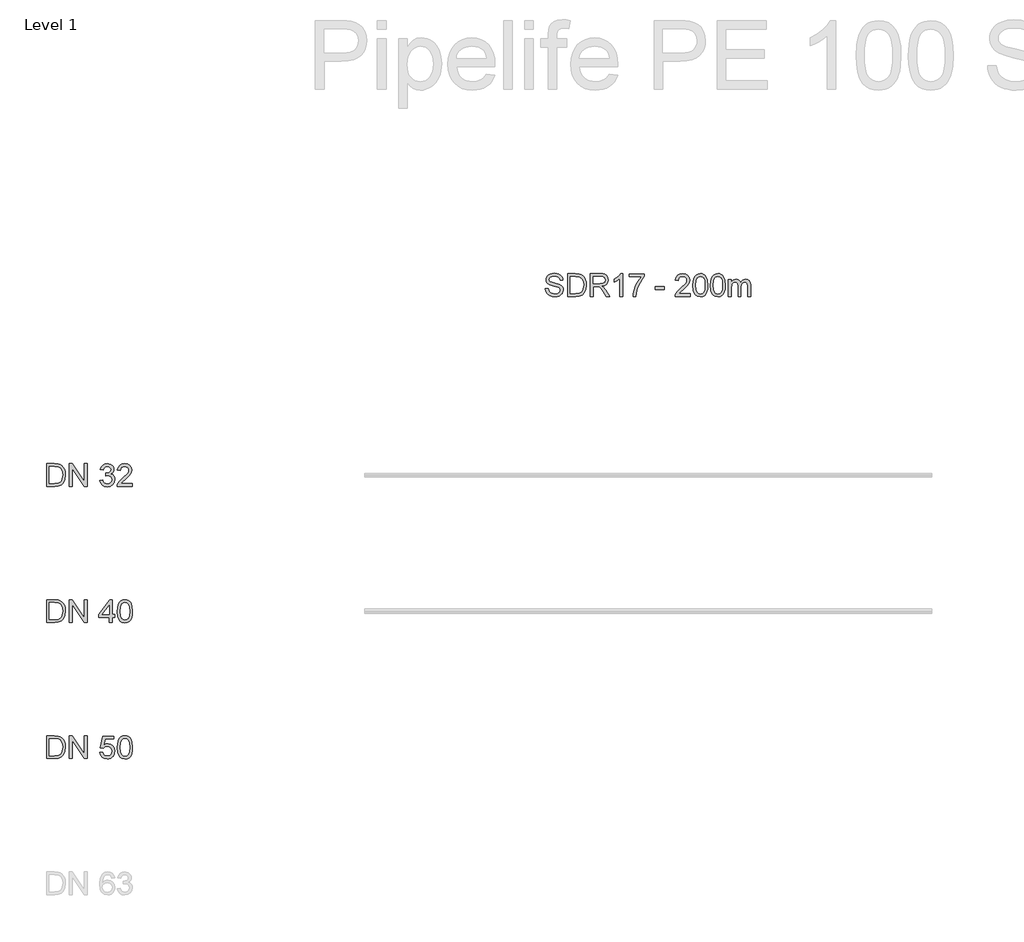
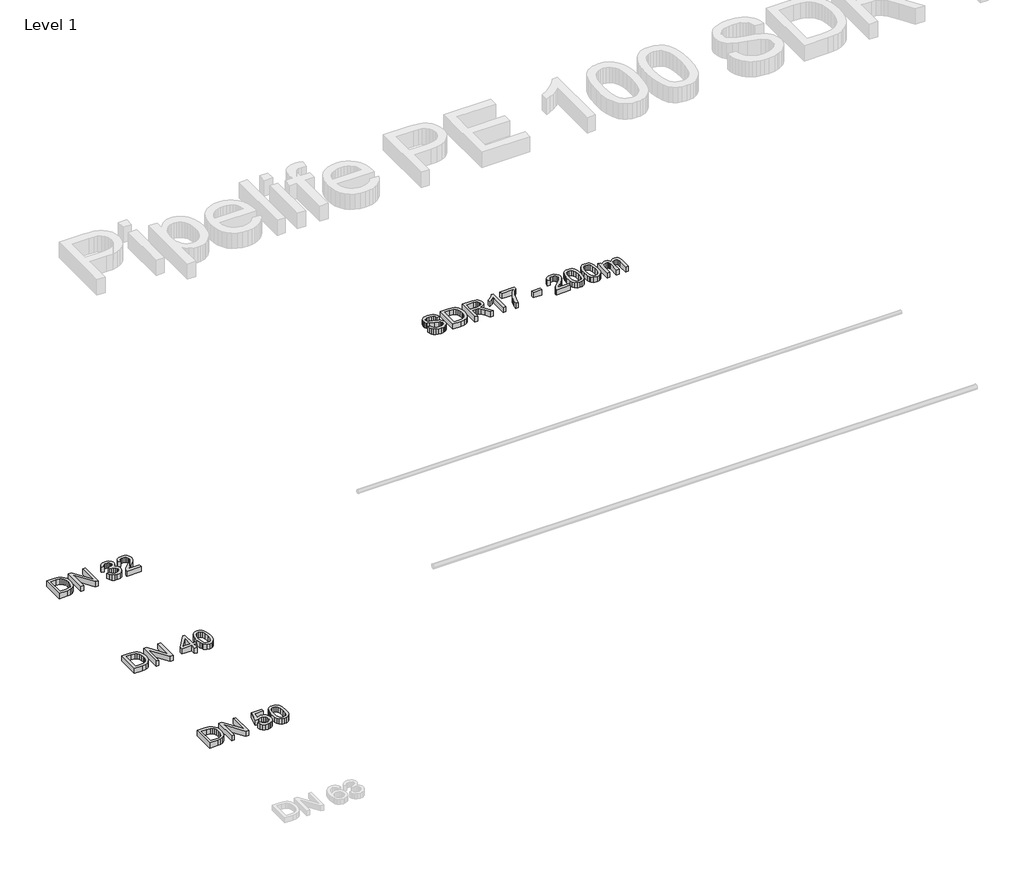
# One storey, part 13 of 26: 4 proxies.
"""IFC4 building model written with IfcOpenShell, lengths in millimetres."""

from ifc_helpers import new_model, si_unit, origin, origin_with_axes, place, context, project, spatial, polyline, outline, extrude, element, save

model = new_model("IFC4")

# Units and contexts
model_context = context("Model", 3, world=origin())
ifc_project = project(units=[si_unit("LENGTHUNIT", "METRE", prefix="MILLI")], contexts=[model_context])

# Site, building, storey
site = spatial("IfcSite", under=ifc_project)
building = spatial("IfcBuilding", under=site)
storey = spatial("IfcBuildingStorey", under=building, Name="Level 1", Elevation=0.0)

# Proxies
placement = place(None, origin())
element("IfcBuildingElementProxy", 1, Name="200mm Arial", ObjectType="200mm Arial", at=placement, inside=storey, context=model_context, shape_type="SweptSolid", body=[
    extrude(outline(polyline([(-19337.4878779, -38413.949573), (-19337.4878779, -38213.0369527), (-19268.17891, -38213.0369527), (-19232.3226782, -38215.9309577), (-19216.3075487, -38221.5105013), (-19202.7940167, -38230.302881), (-19188.90034, -38245.606772), (-19179.0043144, -38264.6385338), (-19173.0814143, -38287.0302846), (-19171.1071142, -38312.4141423), (-19176.4536659, -38352.9547382), (-19190.187927, -38382.2136195), (-19208.5329759, -38400.436041), (-19232.5434074, -38410.5160077), (-19264.8434466, -38413.949573), (-19337.4878779, -38413.949573)]), holes=[polyline([(-19312.3738004, -38388.8354954), (-19267.9336553, -38388.8354954), (-19235.6090907, -38385.2057264), (-19216.9697363, -38374.9540815), (-19208.2448016, -38364.0831685), (-19201.6903707, -38350.0116822), (-19197.5884865, -38332.6783089), (-19196.2211917, -38312.0217348), (-19198.9005989, -38284.6513144), (-19206.9388205, -38264.4423301), (-19218.8152776, -38250.5609162), (-19233.0093913, -38242.1732067), (-19268.6203684, -38238.1510302), (-19312.3738004, -38238.1510302), (-19312.3738004, -38388.8354954)])]), origin_with_axes(), (0.0, 0.0, 1.0), 50.0),
    extrude(outline(polyline([(-19136.5752576, -38413.949573), (-19136.5752576, -38213.0369527), (-19109.6953465, -38213.0369527), (-19004.7263505, -38372.2072292), (-19004.7263505, -38213.0369527), (-18979.612273, -38213.0369527), (-18979.612273, -38413.949573), (-19006.4921841, -38413.949573), (-19111.4611801, -38254.7302454), (-19111.4611801, -38413.949573), (-19136.5752576, -38413.949573)])), origin_with_axes(), (0.0, 0.0, 1.0), 50.0),
    extrude(outline(polyline([(-18866.5989241, -38360.5821582), (-18841.4848465, -38357.4428985), (-18835.8623834, -38373.2250361), (-18827.627958, -38383.8813512), (-18816.3769004, -38389.9514041), (-18801.7045401, -38391.9747551), (-18784.4876627, -38389.1911147), (-18771.19486, -38380.8401934), (-18762.6967859, -38368.3812565), (-18759.8640945, -38353.2735692), (-18762.6722604, -38338.9323028), (-18771.0967581, -38327.3011004), (-18783.8500006, -38319.5939726), (-18799.6444009, -38317.02493), (-18817.2536858, -38319.7717822), (-18814.4577826, -38294.6577047), (-18810.4356061, -38294.9520102), (-18795.3892325, -38293.1493885), (-18781.9370142, -38287.7415231), (-18772.4456588, -38278.5935242), (-18769.2818736, -38265.5705016), (-18771.5750047, -38254.7241141), (-18778.454398, -38245.925603), (-18788.9512976, -38240.0946734), (-18802.0969476, -38238.1510302), (-18815.267123, -38240.1130675), (-18826.0338027, -38245.9991794), (-18833.8942147, -38255.809366), (-18838.3455868, -38269.5436271), (-18863.4596644, -38266.4043674), (-18856.0652363, -38243.8532011), (-18842.9073236, -38227.0164685), (-18824.9056313, -38216.5318316), (-18802.9798644, -38213.0369527), (-18787.1915954, -38214.7598667), (-18772.6909134, -38219.9286087), (-18760.4649685, -38228.0833263), (-18751.5009105, -38238.7641669), (-18746.0010747, -38251.0698196), (-18744.1677961, -38264.0989736), (-18745.9091042, -38276.2390794), (-18751.1330285, -38287.2510138), (-18759.7659927, -38296.6320047), (-18771.7344202, -38303.87928), (-18756.0135963, -38310.2313758), (-18744.3639998, -38321.0471064), (-18737.1535127, -38335.7378608), (-18734.750017, -38353.7150276), (-18739.5570084, -38378.191443), (-18753.9779826, -38398.645682), (-18775.744334, -38412.478045), (-18802.5874569, -38417.0888326), (-18826.8676686, -38413.1524953), (-18846.6351945, -38401.3434833), (-18860.3817184, -38383.2804773), (-18866.5989241, -38360.5821582)])), origin_with_axes(), (0.0, 0.0, 1.0), 50.0),
    extrude(outline(polyline([(-18584.0655518, -38388.8354954), (-18584.0655518, -38413.949573), (-18715.9144588, -38413.949573), (-18713.2166575, -38396.6345937), (-18697.9618175, -38369.9754118), (-18666.5201696, -38340.8636832), (-18623.1591451, -38299.0232377), (-18615.028953, -38284.6022634), (-18612.318889, -38270.5736967), (-18614.8756689, -38257.9982638), (-18622.5460085, -38247.5442838), (-18634.3366264, -38240.4993436), (-18649.2542413, -38238.1510302), (-18664.9198829, -38240.4441613), (-18677.0906456, -38247.3235546), (-18684.9449262, -38258.2496499), (-18687.6611216, -38272.6828868), (-18712.7751992, -38269.5436271), (-18706.6867521, -38245.2511527), (-18693.5227081, -38227.5069778), (-18673.96978, -38216.6544589), (-18648.7146811, -38213.0369527), (-18623.2756411, -38217.0591291), (-18603.7595012, -38229.1256586), (-18591.3434839, -38247.1518763), (-18587.2048115, -38269.0531178), (-18591.6684463, -38292.8673456), (-18606.5063535, -38317.4909138), (-18642.4852126, -38351.9001431), (-18671.376212, -38376.0577275), (-18682.7069774, -38388.8354954), (-18584.0655518, -38388.8354954)])), origin_with_axes(), (0.0, 0.0, 1.0), 50.0),
])
element("IfcBuildingElementProxy", 2, Name="200mm Arial", ObjectType="200mm Arial", at=placement, inside=storey, context=model_context, shape_type="SweptSolid", body=[
    extrude(outline(polyline([(-19337.4878779, -39613.949573), (-19337.4878779, -39413.0369527), (-19268.17891, -39413.0369527), (-19232.3226782, -39415.9309577), (-19216.3075487, -39421.5105013), (-19202.7940167, -39430.302881), (-19188.90034, -39445.606772), (-19179.0043144, -39464.6385338), (-19173.0814143, -39487.0302846), (-19171.1071142, -39512.4141423), (-19176.4536659, -39552.9547382), (-19190.187927, -39582.2136195), (-19208.5329759, -39600.436041), (-19232.5434074, -39610.5160077), (-19264.8434466, -39613.949573), (-19337.4878779, -39613.949573)]), holes=[polyline([(-19312.3738004, -39588.8354954), (-19267.9336553, -39588.8354954), (-19235.6090907, -39585.2057264), (-19216.9697363, -39574.9540815), (-19208.2448016, -39564.0831685), (-19201.6903707, -39550.0116822), (-19197.5884865, -39532.6783089), (-19196.2211917, -39512.0217348), (-19198.9005989, -39484.6513144), (-19206.9388205, -39464.4423301), (-19218.8152776, -39450.5609162), (-19233.0093913, -39442.1732067), (-19268.6203684, -39438.1510302), (-19312.3738004, -39438.1510302), (-19312.3738004, -39588.8354954)])]), origin_with_axes(), (0.0, 0.0, 1.0), 50.0),
    extrude(outline(polyline([(-19136.5752576, -39613.949573), (-19136.5752576, -39413.0369527), (-19109.6953465, -39413.0369527), (-19004.7263505, -39572.2072292), (-19004.7263505, -39413.0369527), (-18979.612273, -39413.0369527), (-18979.612273, -39613.949573), (-19006.4921841, -39613.949573), (-19111.4611801, -39454.7302454), (-19111.4611801, -39613.949573), (-19136.5752576, -39613.949573)])), origin_with_axes(), (0.0, 0.0, 1.0), 50.0),
    extrude(outline(polyline([(-18784.9781721, -39613.949573), (-18784.9781721, -39566.8606776), (-18876.0167031, -39566.8606776), (-18876.0167031, -39541.7466), (-18778.6996527, -39416.1762123), (-18759.8640945, -39416.1762123), (-18759.8640945, -39541.7466), (-18734.750017, -39541.7466), (-18734.750017, -39566.8606776), (-18759.8640945, -39566.8606776), (-18759.8640945, -39613.949573), (-18784.9781721, -39613.949573)]), holes=[polyline([(-18784.9781721, -39541.7466), (-18784.9781721, -39464.1480245), (-18845.1146156, -39541.7466), (-18784.9781721, -39541.7466)])]), origin_with_axes(), (0.0, 0.0, 1.0), 50.0),
    extrude(outline(polyline([(-18712.7751992, -39515.1119436), (-18710.9296578, -39482.9529258), (-18705.3930338, -39457.3054194), (-18696.2205094, -39437.7770168), (-18683.4672669, -39423.9753106), (-18667.0413358, -39415.7715422), (-18646.8507456, -39413.0369527), (-18631.3751764, -39414.6556334), (-18617.5182879, -39419.5116758), (-18605.930005, -39427.4150073), (-18597.2602527, -39438.1755557), (-18585.4880288, -39467.9004209), (-18580.9262921, -39515.1119436), (-18582.7534393, -39547.0870203), (-18588.2348811, -39572.6732131), (-18597.3522232, -39592.2200098), (-18610.0870716, -39606.0768983), (-18626.5497909, -39614.335849), (-18646.8507456, -39617.0888326), (-18672.9458418, -39612.3063667), (-18692.7624186, -39597.9589689), (-18701.5180101, -39582.8298218), (-18707.772004, -39563.9789353), (-18712.7751992, -39515.1119436)]), holes=[polyline([(-18687.6611216, -39515.0628927), (-18684.7180657, -39554.5672876), (-18675.8888978, -39577.4311536), (-18662.7432478, -39588.3388547), (-18646.8507456, -39591.9747551), (-18630.9582434, -39588.326592), (-18617.8125935, -39577.3821026), (-18608.9834256, -39554.5059739), (-18606.0403696, -39515.0628927), (-18608.8853237, -39476.4475459), (-18617.420186, -39453.4058703), (-18630.5413105, -39441.9647402), (-18647.1450512, -39438.1510302), (-18662.8658751, -39441.5110191), (-18675.4964903, -39451.5909857), (-18684.6199638, -39476.0674012), (-18687.6611216, -39515.0628927)])]), origin_with_axes(), (0.0, 0.0, 1.0), 50.0),
])
element("IfcBuildingElementProxy", 3, Name="200mm Arial", ObjectType="200mm Arial", at=placement, inside=storey, context=model_context, shape_type="SweptSolid", body=[
    extrude(outline(polyline([(-19337.4878779, -40813.949573), (-19337.4878779, -40613.0369527), (-19268.17891, -40613.0369527), (-19232.3226782, -40615.9309577), (-19216.3075487, -40621.5105013), (-19202.7940167, -40630.302881), (-19188.90034, -40645.606772), (-19179.0043144, -40664.6385338), (-19173.0814143, -40687.0302846), (-19171.1071142, -40712.4141423), (-19176.4536659, -40752.9547382), (-19190.187927, -40782.2136195), (-19208.5329759, -40800.436041), (-19232.5434074, -40810.5160077), (-19264.8434466, -40813.949573), (-19337.4878779, -40813.949573)]), holes=[polyline([(-19312.3738004, -40788.8354954), (-19267.9336553, -40788.8354954), (-19235.6090907, -40785.2057264), (-19216.9697363, -40774.9540815), (-19208.2448016, -40764.0831685), (-19201.6903707, -40750.0116822), (-19197.5884865, -40732.6783089), (-19196.2211917, -40712.0217348), (-19198.9005989, -40684.6513144), (-19206.9388205, -40664.4423301), (-19218.8152776, -40650.5609162), (-19233.0093913, -40642.1732067), (-19268.6203684, -40638.1510302), (-19312.3738004, -40638.1510302), (-19312.3738004, -40788.8354954)])]), origin_with_axes(), (0.0, 0.0, 1.0), 50.0),
    extrude(outline(polyline([(-19136.5752576, -40813.949573), (-19136.5752576, -40613.0369527), (-19109.6953465, -40613.0369527), (-19004.7263505, -40772.2072292), (-19004.7263505, -40613.0369527), (-18979.612273, -40613.0369527), (-18979.612273, -40813.949573), (-19006.4921841, -40813.949573), (-19111.4611801, -40654.7302454), (-19111.4611801, -40813.949573), (-19136.5752576, -40813.949573)])), origin_with_axes(), (0.0, 0.0, 1.0), 50.0),
    extrude(outline(polyline([(-18866.5989241, -40760.5821582), (-18841.4848465, -40757.4428985), (-18836.8740589, -40772.5199289), (-18828.8297059, -40783.3172655), (-18817.3885758, -40789.8103827), (-18802.5874569, -40791.9747551), (-18784.5857646, -40788.9642541), (-18771.0967581, -40779.9327511), (-18762.6722604, -40765.9225785), (-18759.8640945, -40747.9760685), (-18762.4944508, -40731.0780222), (-18770.3855196, -40718.1531014), (-18783.5986146, -40709.9493329), (-18802.1950494, -40707.2147434), (-18824.2434437, -40711.5802764), (-18838.3455868, -40722.9110419), (-18863.4596644, -40719.7717822), (-18841.4848465, -40616.1762123), (-18744.1677961, -40616.1762123), (-18744.1677961, -40641.2902899), (-18821.1777604, -40641.2902899), (-18831.9199147, -40696.619742), (-18813.979536, -40685.7304349), (-18795.1807661, -40682.1006659), (-18771.7160261, -40686.601089), (-18752.2366745, -40700.1023582), (-18739.1216814, -40720.6792244), (-18734.750017, -40746.4064386), (-18738.6863543, -40771.5205162), (-18750.4953664, -40793.0048247), (-18760.9309523, -40803.5415782), (-18773.1078464, -40811.0678307), (-18787.0260485, -40815.5835821), (-18802.6855588, -40817.0888326), (-18827.3520466, -40813.2199403), (-18847.0030765, -40801.6132634), (-18860.4736888, -40783.6177025), (-18866.5989241, -40760.5821582)])), origin_with_axes(), (0.0, 0.0, 1.0), 50.0),
    extrude(outline(polyline([(-18712.7751992, -40715.1119436), (-18710.9296578, -40682.9529258), (-18705.3930338, -40657.3054194), (-18696.2205094, -40637.7770168), (-18683.4672669, -40623.9753106), (-18667.0413358, -40615.7715422), (-18646.8507456, -40613.0369527), (-18631.3751764, -40614.6556334), (-18617.5182879, -40619.5116758), (-18605.930005, -40627.4150073), (-18597.2602527, -40638.1755557), (-18585.4880288, -40667.9004209), (-18580.9262921, -40715.1119436), (-18582.7534393, -40747.0870203), (-18588.2348811, -40772.6732131), (-18597.3522232, -40792.2200098), (-18610.0870716, -40806.0768983), (-18626.5497909, -40814.335849), (-18646.8507456, -40817.0888326), (-18672.9458418, -40812.3063667), (-18692.7624186, -40797.9589689), (-18701.5180101, -40782.8298218), (-18707.772004, -40763.9789353), (-18712.7751992, -40715.1119436)]), holes=[polyline([(-18687.6611216, -40715.0628927), (-18684.7180657, -40754.5672876), (-18675.8888978, -40777.4311536), (-18662.7432478, -40788.3388547), (-18646.8507456, -40791.9747551), (-18630.9582434, -40788.326592), (-18617.8125935, -40777.3821026), (-18608.9834256, -40754.5059739), (-18606.0403696, -40715.0628927), (-18608.8853237, -40676.4475459), (-18617.420186, -40653.4058703), (-18630.5413105, -40641.9647402), (-18647.1450512, -40638.1510302), (-18662.8658751, -40641.5110191), (-18675.4964903, -40651.5909857), (-18684.6199638, -40676.0674012), (-18687.6611216, -40715.0628927)])]), origin_with_axes(), (0.0, 0.0, 1.0), 50.0),
])
element("IfcBuildingElementProxy", 4, Name="200mm Arial", ObjectType="200mm Arial", at=placement, inside=storey, context=model_context, shape_type="SweptSolid", body=[
    extrude(outline(polyline([(-14939.9131763, -36668.9871574), (-14914.7990987, -36668.9871574), (-14906.7056948, -36694.1257604), (-14898.5755027, -36703.016242), (-14886.9381689, -36710.0182626), (-14872.7133985, -36714.5616053), (-14856.8208963, -36716.0760528), (-14830.5786473, -36711.4897906), (-14813.63155, -36698.8837009), (-14808.0642692, -36682.0347055), (-14812.2335985, -36666.3629325), (-14818.5856942, -36660.1641209), (-14829.303323, -36654.9585907), (-14865.8707934, -36645.3691333), (-14905.2341668, -36632.9837728), (-14917.7360233, -36624.5347497), (-14926.595848, -36614.2953675), (-14931.8749547, -36602.4863554), (-14933.6346569, -36589.3284427), (-14931.4580217, -36574.6192943), (-14924.9281163, -36560.9034272), (-14914.2166189, -36549.2783562), (-14899.4952077, -36540.8415958), (-14881.8246092, -36535.7096419), (-14862.2655498, -36533.9989907), (-14841.0755469, -36535.7893497), (-14822.5342943, -36541.1604268), (-14807.3039797, -36550.0018575), (-14796.0467907, -36562.203277), (-14788.9221427, -36577.0043959), (-14786.0894513, -36593.6449248), (-14811.2035289, -36593.6449248), (-14815.8143165, -36578.6598649), (-14825.4282994, -36567.8441342), (-14840.4501475, -36561.2958347), (-14861.2845312, -36559.1130682), (-14882.6094241, -36561.2713092), (-14897.2388648, -36567.7460324), (-14905.7001507, -36577.274176), (-14908.5205793, -36588.5926788), (-14906.5217538, -36598.2434498), (-14900.5252773, -36606.0057599), (-14886.3495578, -36612.9464668), (-14859.5186976, -36620.0343266), (-14815.0785526, -36632.6404163), (-14800.7618116, -36641.7516271), (-14790.7738154, -36652.9965534), (-14784.9060976, -36666.2525679), (-14782.9501916, -36681.3970434), (-14785.2004032, -36696.878744), (-14791.9510378, -36711.4407397), (-14802.926184, -36723.973253), (-14817.8499303, -36733.3665066), (-14835.7964403, -36739.2342244), (-14855.8398776, -36741.1901304), (-14880.4450517, -36739.0809402), (-14900.6969556, -36732.7533699), (-14916.8285811, -36722.1828939), (-14929.0729201, -36707.3449868), (-14936.9333321, -36689.2697181), (-14939.9131763, -36668.9871574)])), origin_with_axes(), (0.0, 0.0, 1.0), 50.0),
    extrude(outline(polyline([(-14745.2790753, -36738.0508707), (-14745.2790753, -36537.1382504), (-14675.9701074, -36537.1382504), (-14640.1138757, -36540.0322554), (-14624.0987461, -36545.611799), (-14610.5852142, -36554.4041787), (-14596.6915375, -36569.7080697), (-14586.7955118, -36588.7398315), (-14580.8726117, -36611.1315823), (-14578.8983117, -36636.51544), (-14584.2448633, -36677.0560359), (-14597.9791245, -36706.3149172), (-14616.3241733, -36724.5373387), (-14640.3346048, -36734.6173054), (-14672.634644, -36738.0508707), (-14745.2790753, -36738.0508707)]), holes=[polyline([(-14720.1649978, -36712.9367931), (-14675.7248528, -36712.9367931), (-14643.4002881, -36709.3070241), (-14624.7609337, -36699.0553792), (-14616.0359991, -36688.1844662), (-14609.4815682, -36674.1129799), (-14605.3796839, -36656.7796066), (-14604.0123892, -36636.1230325), (-14606.6917964, -36608.7526121), (-14614.730018, -36588.5436278), (-14626.6064751, -36574.6622139), (-14640.8005887, -36566.2745044), (-14676.4115658, -36562.2523279), (-14720.1649978, -36562.2523279), (-14720.1649978, -36712.9367931)])]), origin_with_axes(), (0.0, 0.0, 1.0), 50.0),
    extrude(outline(polyline([(-14544.366455, -36738.0508707), (-14544.366455, -36537.1382504), (-14457.7915588, -36537.1382504), (-14434.5230226, -36538.4932824), (-14417.5943195, -36542.5583784), (-14405.2212217, -36550.0631711), (-14395.6195017, -36561.7372931), (-14389.4574782, -36576.2134496), (-14387.4034704, -36592.1243459), (-14390.8063789, -36611.9163972), (-14401.0151043, -36628.3239342), (-14418.3362149, -36640.3536755), (-14443.076279, -36647.0123396), (-14428.8024576, -36657.7544938), (-14408.4463206, -36683.6043354), (-14374.9445335, -36738.0508707), (-14404.1298385, -36738.0508707), (-14430.2739856, -36696.4066288), (-14449.1585947, -36668.8400046), (-14462.426872, -36655.816982), (-14474.3707741, -36651.0345161), (-14488.9389011, -36650.1515993), (-14519.2523775, -36650.1515993), (-14519.2523775, -36738.0508707), (-14544.366455, -36738.0508707)]), holes=[polyline([(-14519.2523775, -36625.0375217), (-14463.0400086, -36625.0375217), (-14434.3697385, -36621.4813291), (-14424.9396967, -36616.8582787), (-14418.0848288, -36610.1015127), (-14412.517548, -36593.0563136), (-14415.1724297, -36580.8058432), (-14423.1370749, -36570.934343), (-14436.8406792, -36564.4228317), (-14456.7124383, -36562.2523279), (-14519.2523775, -36562.2523279), (-14519.2523775, -36625.0375217)])]), origin_with_axes(), (0.0, 0.0, 1.0), 50.0),
    extrude(outline(polyline([(-14258.6938231, -36738.0508707), (-14283.8079006, -36738.0508707), (-14283.8079006, -36581.4802935), (-14307.5976029, -36598.4273908), (-14334.0360557, -36611.1070569), (-14334.0360557, -36587.3664054), (-14297.2233307, -36563.8710087), (-14283.7527183, -36550.2961631), (-14274.8806308, -36537.1382504), (-14258.6938231, -36537.1382504), (-14258.6938231, -36738.0508707)])), origin_with_axes(), (0.0, 0.0, 1.0), 50.0),
    extrude(outline(polyline([(-14199.0478889, -36565.3915876), (-14199.0478889, -36540.2775101), (-14067.1989818, -36540.2775101), (-14067.1989818, -36560.5845962), (-14085.9916204, -36584.3681672), (-14104.600318, -36614.6141985), (-14121.0139864, -36648.5635753), (-14133.2215372, -36683.4571826), (-14142.5412144, -36738.0508707), (-14167.655292, -36738.0508707), (-14164.9390966, -36712.1642409), (-14157.6734272, -36681.3970434), (-14146.0544875, -36648.7843045), (-14130.2784813, -36617.3610508), (-14111.859856, -36588.9544294), (-14092.3130594, -36565.3915876), (-14199.0478889, -36565.3915876)])), origin_with_axes(), (0.0, 0.0, 1.0), 50.0),
    extrude(outline(polyline([(-13973.0211911, -36678.4049365), (-13973.0211911, -36653.290859), (-13894.5396988, -36653.290859), (-13894.5396988, -36678.4049365), (-13973.0211911, -36678.4049365)])), origin_with_axes(), (0.0, 0.0, 1.0), 50.0),
    extrude(outline(polyline([(-13665.3737412, -36712.9367931), (-13665.3737412, -36738.0508707), (-13797.2226483, -36738.0508707), (-13794.524847, -36720.7358914), (-13779.2700069, -36694.0767095), (-13747.8283591, -36664.9649809), (-13704.4673346, -36623.1245354), (-13696.3371425, -36608.7035612), (-13693.6270785, -36594.6749944), (-13696.1838583, -36582.0995615), (-13703.8541979, -36571.6455815), (-13715.6448159, -36564.6006413), (-13730.5624308, -36562.2523279), (-13746.2280724, -36564.545459), (-13758.3988351, -36571.4248523), (-13766.2531157, -36582.3509476), (-13768.9693111, -36596.7841845), (-13794.0833886, -36593.6449248), (-13787.9949416, -36569.3524504), (-13774.8308975, -36551.6082755), (-13755.2779695, -36540.7557566), (-13730.0228705, -36537.1382504), (-13704.5838306, -36541.1604268), (-13685.0676907, -36553.2269563), (-13672.6516734, -36571.253174), (-13668.5130009, -36593.1544155), (-13672.9766358, -36616.9686433), (-13687.8145429, -36641.5922115), (-13723.7934021, -36676.0014408), (-13752.6844014, -36700.1590252), (-13764.0151669, -36712.9367931), (-13665.3737412, -36712.9367931)])), origin_with_axes(), (0.0, 0.0, 1.0), 50.0),
    extrude(outline(polyline([(-13640.2596637, -36639.2132413), (-13638.4141224, -36607.0542235), (-13632.8774983, -36581.4067171), (-13623.7049739, -36561.8783145), (-13610.9517314, -36548.0766083), (-13594.5258003, -36539.8728399), (-13574.3352102, -36537.1382504), (-13558.8596409, -36538.7569311), (-13545.0027524, -36543.6129735), (-13533.4144696, -36551.516305), (-13524.7447172, -36562.2768534), (-13512.9724934, -36592.0017186), (-13508.4107566, -36639.2132413), (-13510.2379039, -36671.188318), (-13515.7193456, -36696.7745108), (-13524.8366877, -36716.3213075), (-13537.5715361, -36730.178196), (-13554.0342554, -36738.4371468), (-13574.3352102, -36741.1901304), (-13600.4303063, -36736.4076644), (-13620.2468832, -36722.0602666), (-13629.0024746, -36706.9311195), (-13635.2564686, -36688.080233), (-13640.2596637, -36639.2132413)]), holes=[polyline([(-13615.1455862, -36639.1641904), (-13612.2025302, -36678.6685853), (-13603.3733623, -36701.5324513), (-13590.2277124, -36712.4401524), (-13574.3352102, -36716.0760528), (-13558.442708, -36712.4278897), (-13545.297058, -36701.4834003), (-13536.4678901, -36678.6072716), (-13533.5248342, -36639.1641904), (-13536.3697883, -36600.5488436), (-13544.9046505, -36577.507168), (-13558.025775, -36566.0660379), (-13574.6295158, -36562.2523279), (-13590.3503397, -36565.6123168), (-13602.9809548, -36575.6922835), (-13612.1044283, -36600.1686989), (-13615.1455862, -36639.1641904)])]), origin_with_axes(), (0.0, 0.0, 1.0), 50.0),
    extrude(outline(polyline([(-13486.4359388, -36639.2132413), (-13484.5903974, -36607.0542235), (-13479.0537734, -36581.4067171), (-13469.881249, -36561.8783145), (-13457.1280065, -36548.0766083), (-13440.7020754, -36539.8728399), (-13420.5114852, -36537.1382504), (-13405.035916, -36538.7569311), (-13391.1790275, -36543.6129735), (-13379.5907446, -36551.516305), (-13370.9209923, -36562.2768534), (-13359.1487684, -36592.0017186), (-13354.5870317, -36639.2132413), (-13356.4141789, -36671.188318), (-13361.8956207, -36696.7745108), (-13371.0129628, -36716.3213075), (-13383.7478112, -36730.178196), (-13400.2105305, -36738.4371468), (-13420.5114852, -36741.1901304), (-13446.6065814, -36736.4076644), (-13466.4231582, -36722.0602666), (-13475.1787497, -36706.9311195), (-13481.4327436, -36688.080233), (-13486.4359388, -36639.2132413)]), holes=[polyline([(-13461.3218612, -36639.1641904), (-13458.3788053, -36678.6685853), (-13449.5496374, -36701.5324513), (-13436.4039874, -36712.4401524), (-13420.5114852, -36716.0760528), (-13404.6189831, -36712.4278897), (-13391.4733331, -36701.4834003), (-13382.6441652, -36678.6072716), (-13379.7011092, -36639.1641904), (-13382.5460633, -36600.5488436), (-13391.0809256, -36577.507168), (-13404.2020501, -36566.0660379), (-13420.8057908, -36562.2523279), (-13436.5266148, -36565.6123168), (-13449.1572299, -36575.6922835), (-13458.2807034, -36600.1686989), (-13461.3218612, -36639.1641904)])]), origin_with_axes(), (0.0, 0.0, 1.0), 50.0),
    extrude(outline(polyline([(-13326.3336945, -36738.0508707), (-13326.3336945, -36590.5056651), (-13301.2196169, -36590.5056651), (-13301.2196169, -36614.7858768), (-13293.6657733, -36603.632921), (-13283.9536886, -36594.8957236), (-13272.4144567, -36589.248735), (-13259.3791714, -36587.3664054), (-13245.4119183, -36589.2855232), (-13234.2160429, -36595.0428764), (-13225.8528589, -36604.2583204), (-13220.3836799, -36616.5517104), (-13211.2295496, -36603.7831395), (-13200.7878323, -36594.6627317), (-13189.058528, -36589.190487), (-13176.0416367, -36587.3664054), (-13157.163159, -36590.4014319), (-13143.2020373, -36599.5065113), (-13134.5752045, -36614.9268982), (-13131.6995936, -36636.9078475), (-13131.6995936, -36738.0508707), (-13156.8136711, -36738.0508707), (-13156.8136711, -36647.6990526), (-13159.1435904, -36626.7297789), (-13167.5803508, -36616.4045576), (-13181.9277486, -36612.480483), (-13195.5332511, -36614.9943433), (-13206.6248932, -36622.5359242), (-13214.0009272, -36635.6202605), (-13216.4596053, -36654.762387), (-13216.4596053, -36738.0508707), (-13241.5736828, -36738.0508707), (-13241.5736828, -36644.9031495), (-13243.0268167, -36630.7029045), (-13247.3862183, -36620.5738869), (-13255.0565579, -36614.5038339), (-13266.4425057, -36612.480483), (-13285.0328092, -36617.8760856), (-13292.3904491, -36624.5224869), (-13297.3936442, -36633.6704859), (-13301.2196169, -36663.6406058), (-13301.2196169, -36738.0508707), (-13326.3336945, -36738.0508707)])), origin_with_axes(), (0.0, 0.0, 1.0), 50.0),
])

save(model, "model.ifc")
